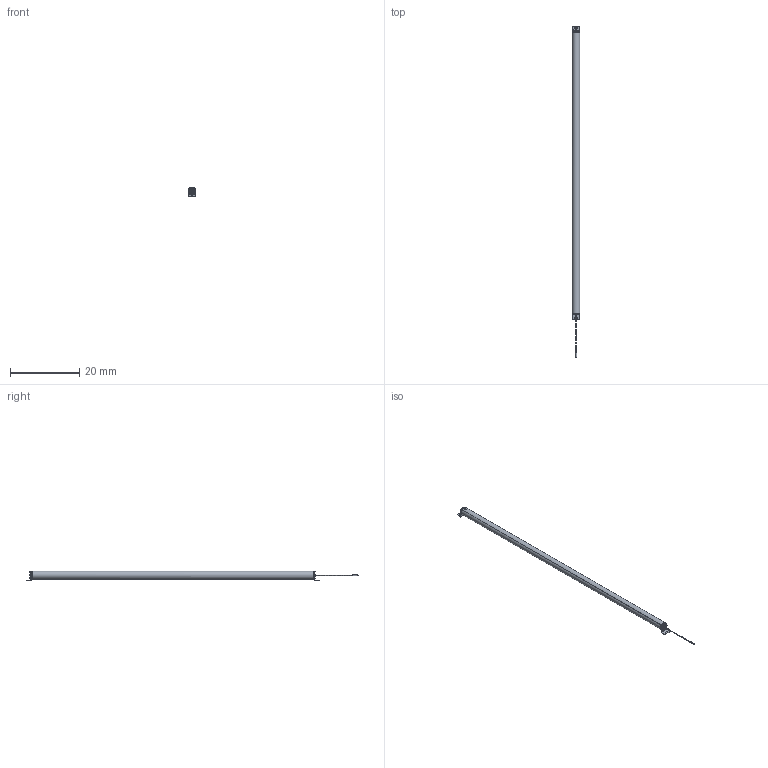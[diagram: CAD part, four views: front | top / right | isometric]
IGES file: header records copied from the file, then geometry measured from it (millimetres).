
Start section:  Autodesk DirectConnect version 7.0.27.0 ---- IGES version 5.3
Global section: file name: C:\ACADFILES\SS_PYLONS\CUSTOMER_FILES\SS-80-PYLON_3D_SMB_PT.iges; native system: Autodesk DirectConnect 7.0.27.0; preprocessor: 7.0.27.0; author: ENGINEERMAIN; organization: Unknown; date: 20150810.130350; units: millimetre
Bounding box: 2.26 x 96.01 x 2.75 mm (x, y, z)
Surface area: 2341.8 mm2 (no closed solid volume)
Topology: 0 solids, 0 shells, 772 faces, 3944 edges, 3944 vertices
Faces by surface type: bspline 772
